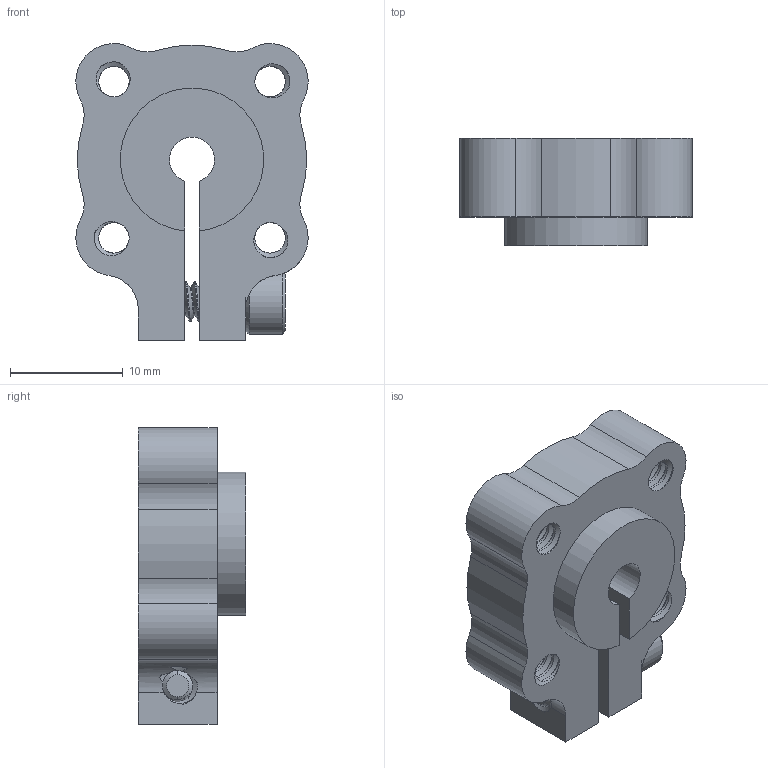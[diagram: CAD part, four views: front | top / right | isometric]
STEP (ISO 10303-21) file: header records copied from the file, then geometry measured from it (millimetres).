
FILE_DESCRIPTION (( 'STEP AP203' ), '1' );
FILE_NAME ('545608 assembly.STEP', '2016-08-18T14:38:31', ( '' ), ( '' ), 'SwSTEP 2.0', 'SolidWorks 2014', '' );
FILE_SCHEMA (( 'CONFIG_CONTROL_DESIGN' ));
Length unit declared in the file: inch
Products named in the file (3): 632110_90128A121; 545608; 545608 assembly
Assembly tree (2 placements, depth 2):
  545608 assembly
    545608
    632110_90128A121
Bounding box: 20.57 x 9.53 x 26.29 mm (x, y, z)
Volume: 3087.5 mm3; surface area: 2613.6 mm2
Topology: 2 solids, 2 shells, 294 faces, 851 edges, 562 vertices
Faces by surface type: cylinder 247, plane 19, bspline 15, cone 13
Entity records: 18950 total; most frequent: CARTESIAN_POINT 12277, ORIENTED_EDGE 1702, DIRECTION 1014, EDGE_CURVE 851, VERTEX_POINT 562, AXIS2_PLACEMENT_3D 370, EDGE_LOOP 307, FACE_OUTER_BOUND 294
